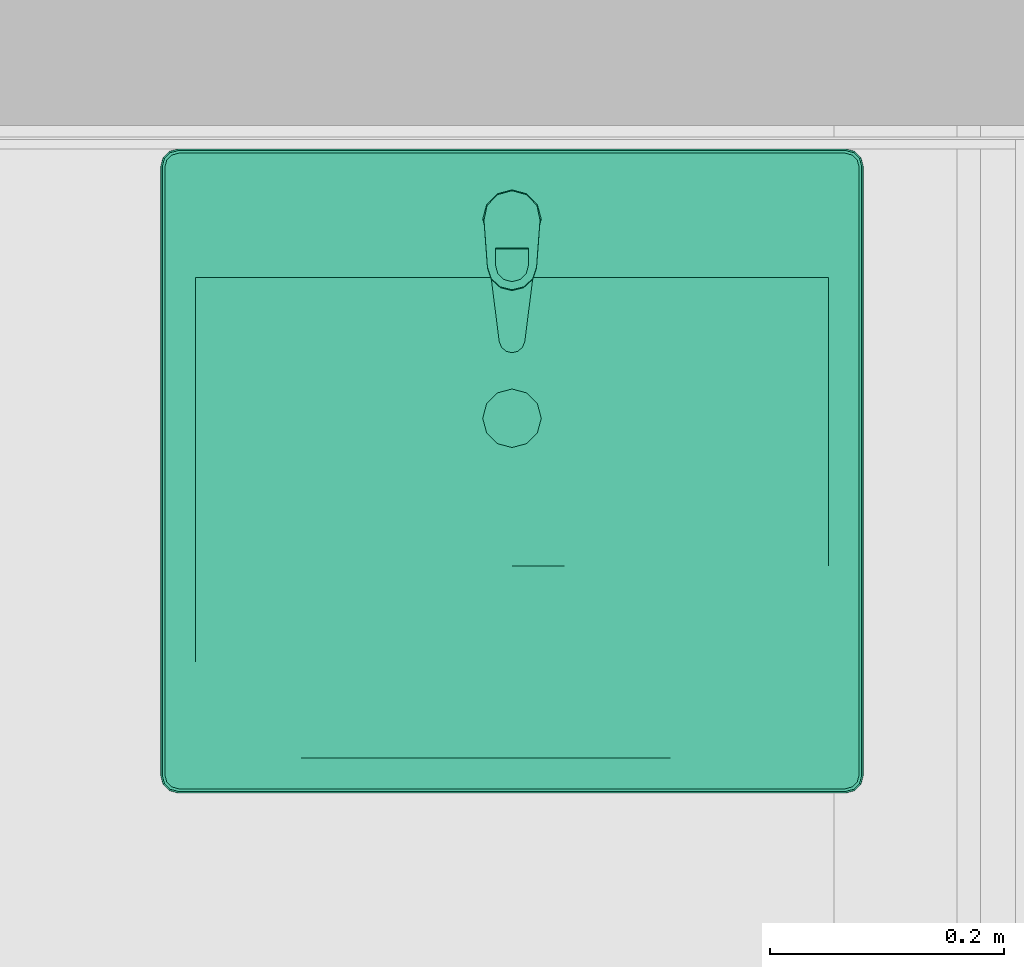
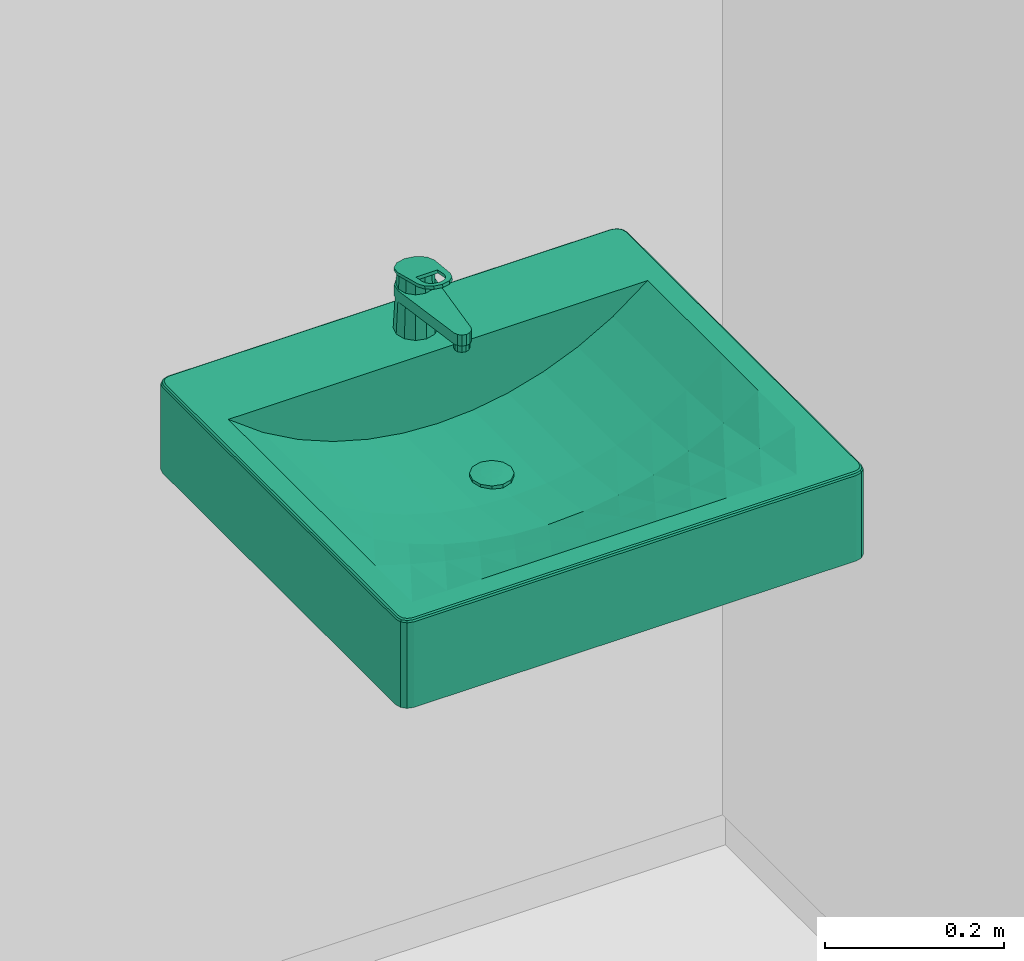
# One storey, part 264 of 347: 1 flow terminal.
"""IFC2X3 building model written with IfcOpenShell, lengths in millimetres."""

from ifc_helpers import new_model, entity, si_unit, converted_unit, derived_unit, money_unit, direction, frame, origin_with_axes, place, context, subcontext, project, spatial, open_shell, faceted_brep, surface_model, source, transform, mapped, type_object, type_shapes, element, save


model = new_model("IFC2X3")

# Units and contexts
model_context = context("Model", 3, precision=0.01, world=origin_with_axes(), true_north=direction((0.0, 1.0)))
plan_context = context("Plan", 3, precision=0.01, world=origin_with_axes(), true_north=direction((0.0, 1.0)))
body_context = subcontext(model_context, "Body", "Model", "MODEL_VIEW")
ifc_project = project(units=[si_unit("LENGTHUNIT", "METRE", prefix="MILLI"), si_unit("AREAUNIT", "SQUARE_METRE"), si_unit("VOLUMEUNIT", "CUBIC_METRE"), converted_unit("PLANEANGLEUNIT", "DEGREE", entity("IfcPlaneAngleMeasure", 0.0174532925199), si_unit("PLANEANGLEUNIT", "RADIAN"), dimensions=[0, 0, 0, 0, 0, 0, 0]), money_unit("EUR"), converted_unit("TIMEUNIT", "Year", entity("IfcTimeMeasure", 31556926.0), si_unit("TIMEUNIT", "SECOND"), dimensions=[0, 0, 1, 0, 0, 0, 0]), si_unit("MASSUNIT", "GRAM", prefix="KILO"), si_unit("THERMODYNAMICTEMPERATUREUNIT", "DEGREE_CELSIUS"), si_unit("LUMINOUSINTENSITYUNIT", "LUMEN"), si_unit("ENERGYUNIT", "JOULE", prefix="MEGA"), derived_unit("THERMALCONDUCTANCEUNIT", [(si_unit("POWERUNIT", "WATT"), 1), (si_unit("LENGTHUNIT", "METRE"), -1), (si_unit("THERMODYNAMICTEMPERATUREUNIT", "KELVIN"), -1)]), derived_unit("SPECIFICHEATCAPACITYUNIT", [(si_unit("ENERGYUNIT", "JOULE"), 1), (si_unit("MASSUNIT", "GRAM", prefix="KILO"), -1), (si_unit("THERMODYNAMICTEMPERATUREUNIT", "KELVIN"), -1)]), derived_unit("MASSDENSITYUNIT", [(si_unit("MASSUNIT", "GRAM", prefix="KILO"), 1), (si_unit("VOLUMEUNIT", "CUBIC_METRE"), -1)])], contexts=[model_context, plan_context])

# Site, building, storey
site_placement = place(None, origin_with_axes())
site = spatial("IfcSite", under=ifc_project, at=site_placement, Name="Site", CompositionType="ELEMENT")
building_placement = place(site_placement, origin_with_axes())
building = spatial("IfcBuilding", under=site, at=building_placement, Name="Naam gebouw", CompositionType="ELEMENT")
storey_placement = place(building_placement, origin_with_axes())
storey = spatial("IfcBuildingStorey", under=building, at=storey_placement, Name="begane grond", CompositionType="ELEMENT", Elevation=0.0)

# Flow terminal
sanitary_terminal_type = type_object("IfcSanitaryTerminalType", Name="Wasbak 25", PredefinedType="WASHHANDBASIN")
shared_shape = source(origin_with_axes(), body_context, "Body", "SurfaceModel", [
    faceted_brep([(285.0, -550.0, 780.0), (-285.0, -550.0, 780.0), (-292.5, -547.990381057, 780.0), (-297.990381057, -542.5, 780.0), (-300.0, -535.0, 780.0), (-300.0, -15.0, 780.0), (-297.990381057, -7.5, 780.0), (-292.5, -2.00961894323, 780.0), (-285.0, 0.0, 780.0), (285.0, 0.0, 780.0), (292.5, -2.00961894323, 780.0), (297.990381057, -7.5, 780.0), (300.0, -15.0, 780.0), (300.0, -535.0, 780.0), (297.990381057, -542.5, 780.0), (292.5, -547.990381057, 780.0), (-270.0, -520.0, 780.0), (270.0, -520.0, 780.0), (270.0, -110.0, 780.0), (-270.0, -110.0, 780.0), (284.999999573, -550.00000039, 895.0), (-284.999999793, -550.00000039, 895.0), (-292.500000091, -547.990381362, 895.0), (-297.990381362, -542.500000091, 895.0), (-300.00000039, -534.999999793, 895.0), (-300.00000039, -15.0000002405, 895.0), (-297.990381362, -7.49999994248, 895.0), (-292.500000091, -2.00961867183, 895.0), (-284.999999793, 3.55541707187e-07, 895.0), (284.999999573, 3.55541707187e-07, 895.0), (292.499999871, -2.00961867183, 895.0), (297.990381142, -7.49999994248, 895.0), (300.000000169, -15.0000002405, 895.0), (300.000000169, -534.999999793, 895.0), (297.990381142, -542.500000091, 895.0), (292.499999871, -547.990381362, 895.0), (-270.0, -520.0, 899.999999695), (270.0, -520.0, 899.999999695), (270.0, -110.0, 899.999999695), (-270.0, -110.0, 899.999999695), (284.977569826, -549.829629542, 896.294095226), (-284.977570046, -549.829629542, 896.294095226), (-292.411809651, -547.837631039, 896.294095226), (-297.837631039, -542.411809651, 896.294095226), (-299.829629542, -534.977570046, 896.294095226), (-299.829629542, -15.0224299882, 896.294095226), (-297.837631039, -7.58819038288, 896.294095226), (-292.411809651, -2.16236899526, 896.294095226), (-284.977570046, -0.170370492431, 896.294095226), (284.977569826, -0.170370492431, 896.294095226), (292.411809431, -2.16236899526, 896.294095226), (297.837630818, -7.58819038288, 896.294095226), (299.829629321, -15.0224299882, 896.294095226), (299.829629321, -534.977570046, 896.294095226), (297.837630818, -542.411809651, 896.294095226), (292.411809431, -547.837631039, 896.294095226), (-284.34173768, -4.99999679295, 899.999999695), (-289.911811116, -6.49249347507, 899.999999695), (-293.507506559, -10.0881889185, 899.999999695), (-295.000003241, -15.6582623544, 899.999999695), (-295.000003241, -534.34173768, 899.999999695), (-293.507506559, -539.911811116, 899.999999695), (-289.911811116, -543.507506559, 899.999999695), (-284.34173768, -545.000003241, 899.999999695), (284.341737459, -545.000003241, 899.999999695), (289.911810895, -543.507506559, 899.999999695), (293.507506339, -539.911811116, 899.999999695), (295.000003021, -534.34173768, 899.999999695), (295.000003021, -15.6582623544, 899.999999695), (293.507506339, -10.0881889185, 899.999999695), (289.911810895, -6.49249347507, 899.999999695), (284.341737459, -4.99999679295, 899.999999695), (284.807198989, -548.535534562, 898.535533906), (-284.807199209, -548.535534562, 898.535533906), (-291.741936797, -546.677377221, 898.535533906), (-296.677377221, -541.741936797, 898.535533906), (-298.535534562, -534.807199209, 898.535533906), (-298.535534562, -15.1928008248, 898.535533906), (-296.677377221, -8.25806323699, 898.535533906), (-291.741936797, -3.32262281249, 898.535533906), (-284.807199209, -1.46446547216, 898.535533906), (284.807198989, -1.46446547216, 898.535533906), (291.741936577, -3.32262281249, 898.535533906), (296.677377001, -8.25806323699, 898.535533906), (298.535534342, -15.1928008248, 898.535533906), (298.535534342, -534.807199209, 898.535533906), (296.677377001, -541.741936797, 898.535533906), (291.741936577, -546.677377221, 898.535533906), (-290.581682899, -5.33224151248, 899.829629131), (-284.512108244, -3.70590388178, 899.829629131), (-294.667758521, -9.41831713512, 899.829629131), (-296.294096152, -15.4878917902, 899.829629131), (-296.294096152, -534.512108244, 899.829629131), (-294.667758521, -540.581682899, 899.829629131), (-290.581682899, -544.667758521, 899.829629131), (-284.512108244, -546.294096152, 899.829629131), (284.512108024, -546.294096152, 899.829629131), (290.581682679, -544.667758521, 899.829629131), (294.667758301, -540.581682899, 899.829629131), (296.294095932, -534.512108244, 899.829629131), (296.294095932, -15.4878917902, 899.829629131), (294.667758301, -9.41831713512, 899.829629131), (290.581682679, -5.33224151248, 899.829629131), (284.512108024, -3.70590388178, 899.829629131)], [[[0, 1, 2, 3, 4, 5, 6, 7, 8, 9, 10, 11, 12, 13, 14, 15], [16, 17, 18, 19]], [[0, 20, 21, 1]], [[1, 21, 22, 2]], [[2, 22, 23, 3]], [[3, 23, 24, 4]], [[4, 24, 25, 5]], [[5, 25, 26, 6]], [[6, 26, 27, 7]], [[7, 27, 28, 8]], [[8, 28, 29, 9]], [[9, 29, 30, 10]], [[10, 30, 31, 11]], [[11, 31, 32, 12]], [[12, 32, 33, 13]], [[13, 33, 34, 14]], [[14, 34, 35, 15]], [[15, 35, 20, 0]], [[36, 37, 17, 16]], [[37, 38, 18, 17]], [[38, 39, 19, 18]], [[39, 36, 16, 19]], [[20, 40, 41, 21]], [[21, 41, 42, 22]], [[22, 42, 43, 23]], [[23, 43, 44, 24]], [[24, 44, 45, 25]], [[25, 45, 46, 26]], [[26, 46, 47, 27]], [[27, 47, 48, 28]], [[28, 48, 49, 29]], [[29, 49, 50, 30]], [[30, 50, 51, 31]], [[31, 51, 52, 32]], [[32, 52, 53, 33]], [[33, 53, 54, 34]], [[34, 54, 55, 35]], [[35, 55, 40, 20]], [[56, 57, 58, 59, 60, 61, 62, 63, 64, 65, 66, 67, 68, 69, 70, 71], [36, 39, 38, 37]], [[40, 72, 73, 41]], [[41, 73, 74, 42]], [[42, 74, 75, 43]], [[43, 75, 76, 44]], [[44, 76, 77, 45]], [[45, 77, 78, 46]], [[46, 78, 79, 47]], [[47, 79, 80, 48]], [[48, 80, 81, 49]], [[49, 81, 82, 50]], [[50, 82, 83, 51]], [[51, 83, 84, 52]], [[52, 84, 85, 53]], [[53, 85, 86, 54]], [[54, 86, 87, 55]], [[55, 87, 72, 40]], [[88, 57, 56, 89]], [[90, 58, 57, 88]], [[91, 59, 58, 90]], [[92, 60, 59, 91]], [[93, 61, 60, 92]], [[94, 62, 61, 93]], [[95, 63, 62, 94]], [[96, 64, 63, 95]], [[97, 65, 64, 96]], [[98, 66, 65, 97]], [[99, 67, 66, 98]], [[100, 68, 67, 99]], [[101, 69, 68, 100]], [[102, 70, 69, 101]], [[103, 71, 70, 102]], [[89, 56, 71, 103]], [[72, 96, 95, 73]], [[73, 95, 94, 74]], [[74, 94, 93, 75]], [[75, 93, 92, 76]], [[76, 92, 91, 77]], [[77, 91, 90, 78]], [[78, 90, 88, 79]], [[79, 88, 89, 80]], [[80, 89, 103, 81]], [[81, 103, 102, 82]], [[82, 102, 101, 83]], [[83, 101, 100, 84]], [[84, 100, 99, 85]], [[85, 99, 98, 86]], [[86, 98, 97, 87]], [[87, 97, 96, 72]]]),
    faceted_brep([(-270.0, -520.0, 780.0), (-270.0, -110.0, 780.0), (270.0, -110.0, 780.0), (270.0, -520.0, 780.0), (12.5, -251.638635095, 780.0), (21.6506350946, -242.488, 780.0), (25.0, -229.988, 780.0), (21.6506350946, -217.488, 780.0), (12.5, -208.337364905, 780.0), (0.0, -204.988, 780.0), (-12.5, -208.337364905, 780.0), (-21.6506350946, -217.488, 780.0), (-25.0, -229.988, 780.0), (-21.6506350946, -242.488, 780.0), (-12.5, -251.638635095, 780.0), (0.0, -254.988, 780.0), (-270.0, -356.0, 900.0), (-270.0, -274.0, 900.0), (-270.0, -192.0, 900.0), (-270.0, -110.0, 900.0), (-270.0, -520.0, 900.0), (-270.0, -438.0, 900.0), (135.0, -110.0, 822.600459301), (180.0, -110.0, 841.123179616), (225.0, -110.0, 866.383281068), (270.0, -110.0, 900.0), (-225.0, -110.0, 866.383281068), (-180.0, -110.0, 841.123179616), (-135.0, -110.0, 822.600459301), (-90.0, -110.0, 809.888766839), (-45.0, -110.0, 802.449942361), (0.0, -110.0, 800.0), (45.0, -110.0, 802.449942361), (90.0, -110.0, 809.888766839), (270.0, -274.0, 900.0), (270.0, -356.0, 900.0), (270.0, -438.0, 900.0), (270.0, -520.0, 900.0), (270.0, -192.0, 900.0), (-135.0, -520.0, 900.0), (-180.0, -520.0, 900.0), (-225.0, -520.0, 900.0), (225.0, -520.0, 900.0), (180.0, -520.0, 900.0), (135.0, -520.0, 900.0), (90.0, -520.0, 900.0), (45.0, -520.0, 900.0), (0.0, -520.0, 900.0), (-45.0, -520.0, 900.0), (-90.0, -520.0, 900.0), (12.5, -251.638635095, 800.680539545), (21.6506350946, -242.488, 801.178729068), (25.0, -229.988, 801.36107909), (21.6506350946, -217.488, 801.178729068), (12.5, -208.337364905, 800.680539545), (0.0, -204.988, 800.0), (-12.5, -208.337364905, 800.680539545), (-21.6506350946, -217.488, 801.178729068), (-25.0, -229.988, 801.36107909), (-21.6506350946, -242.488, 801.178729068), (-12.5, -251.638635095, 800.680539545), (0.0, -254.988, 800.0), (-225.0, -274.0, 866.383281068), (-225.0, -192.0, 866.383281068), (-225.0, -438.0, 885.916884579), (-225.0, -356.0, 870.843379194), (180.0, -192.0, 841.123179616), (135.0, -192.0, 822.600459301), (225.0, -192.0, 866.383281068), (-180.0, -192.0, 841.123179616), (-135.0, -192.0, 822.600459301), (-90.0, -192.0, 809.888766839), (-45.0, -192.0, 802.449942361), (0.0, -192.0, 800.0), (45.0, -192.0, 802.449942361), (90.0, -192.0, 809.888766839), (225.0, -356.0, 870.843379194), (225.0, -438.0, 885.916884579), (225.0, -274.0, 866.383281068), (-135.0, -438.0, 865.865098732), (-180.0, -438.0, 874.576615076), (180.0, -438.0, 874.576615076), (135.0, -438.0, 865.865098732), (90.0, -438.0, 859.698966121), (45.0, -438.0, 856.021333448), (0.0, -438.0, 854.799081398), (-45.0, -438.0, 856.021333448), (-90.0, -438.0, 859.698966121), (0.0, -274.0, 800.0), (45.0, -274.0, 802.449942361), (-45.0, -274.0, 802.449942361), (-180.0, -274.0, 841.123179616), (180.0, -274.0, 841.123179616), (135.0, -274.0, 822.600459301), (-135.0, -274.0, 822.600459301), (-90.0, -274.0, 809.888766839), (90.0, -274.0, 809.888766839), (0.0, -356.0, 811.460400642), (-45.0, -356.0, 813.686473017), (-180.0, -356.0, 848.49465434), (135.0, -356.0, 831.904485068), (180.0, -356.0, 848.49465434), (-135.0, -356.0, 831.904485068), (-90.0, -356.0, 820.431203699), (45.0, -356.0, 813.686473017), (90.0, -356.0, 820.431203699)], [[[0, 1, 2, 3], [4, 5, 6, 7, 8, 9, 10, 11, 12, 13, 14, 15]], [[16, 17, 18, 19, 1, 0, 20, 21]], [[22, 23, 24, 25, 2, 1, 19, 26, 27, 28, 29, 30, 31, 32, 33]], [[34, 35, 36, 37, 3, 2, 25, 38]], [[39, 40, 41, 20, 0, 3, 37, 42, 43, 44, 45, 46, 47, 48, 49]], [[50, 51, 5, 4]], [[51, 52, 6, 5]], [[52, 53, 7, 6]], [[53, 54, 8, 7]], [[54, 55, 9, 8]], [[55, 56, 10, 9]], [[56, 57, 11, 10]], [[57, 58, 12, 11]], [[58, 59, 13, 12]], [[59, 60, 14, 13]], [[60, 61, 15, 14]], [[61, 50, 4, 15]], [[16, 62, 17]], [[62, 63, 18, 17]], [[63, 26, 19, 18]], [[20, 64, 21]], [[21, 65, 16]], [[66, 23, 22, 67]], [[68, 24, 23, 66]], [[38, 25, 24, 68]], [[69, 27, 26, 63]], [[70, 28, 27, 69]], [[71, 29, 28, 70]], [[72, 30, 29, 71]], [[73, 31, 30, 72]], [[74, 32, 31, 73]], [[75, 33, 32, 74]], [[67, 22, 33, 75]], [[76, 35, 34]], [[77, 36, 35]], [[42, 37, 36]], [[34, 38, 68, 78]], [[40, 39, 79]], [[41, 40, 80]], [[20, 41, 64]], [[43, 42, 77]], [[44, 43, 81]], [[45, 44, 82]], [[46, 45, 83]], [[47, 46, 84]], [[48, 47, 85]], [[49, 48, 86]], [[39, 49, 87]], [[54, 53, 52, 51, 50, 61, 88, 89, 74, 73, 55]], [[56, 55, 73, 72, 90, 88, 61, 60, 59, 58, 57]], [[16, 65, 62]], [[91, 69, 63, 62]], [[21, 64, 65]], [[92, 66, 67, 93]], [[78, 68, 66, 92]], [[94, 70, 69, 91]], [[95, 71, 70, 94]], [[90, 72, 71, 95]], [[96, 75, 74, 89]], [[93, 67, 75, 96]], [[77, 35, 76]], [[76, 34, 78]], [[42, 36, 77]], [[39, 87, 79]], [[40, 79, 80]], [[41, 80, 64]], [[43, 77, 81]], [[44, 81, 82]], [[45, 82, 83]], [[46, 83, 84]], [[47, 84, 85]], [[48, 85, 86]], [[49, 86, 87]], [[97, 89, 88]], [[98, 88, 90]], [[65, 91, 62]], [[64, 99, 65]], [[100, 92, 93]], [[101, 78, 92]], [[99, 94, 91]], [[102, 95, 94]], [[103, 90, 95]], [[104, 96, 89]], [[105, 93, 96]], [[81, 77, 76]], [[101, 76, 78]], [[79, 87, 103]], [[80, 79, 102]], [[64, 80, 99]], [[82, 81, 101]], [[83, 82, 100]], [[84, 83, 105]], [[85, 84, 104]], [[86, 85, 97]], [[87, 86, 98]], [[97, 104, 89]], [[98, 97, 88]], [[103, 98, 90]], [[65, 99, 91]], [[100, 101, 92]], [[105, 100, 93]], [[99, 102, 94]], [[102, 103, 95]], [[104, 105, 96]], [[81, 76, 101]], [[87, 98, 103]], [[79, 103, 102]], [[80, 102, 99]], [[82, 101, 100]], [[83, 100, 105]], [[84, 105, 104]], [[85, 104, 97]], [[86, 97, 98]]]),
    faceted_brep([(21.6506350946, -242.488, 800.0), (12.5, -251.638635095, 800.0), (0.0, -254.988, 800.0), (-12.5, -251.638635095, 800.0), (-21.6506350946, -242.488, 800.0), (-25.0, -229.988, 800.0), (-21.6506350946, -217.488, 800.0), (-12.5, -208.337364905, 800.0), (0.0, -204.988, 800.0), (12.5, -208.337364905, 800.0), (21.6506350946, -217.488, 800.0), (25.0, -229.988, 800.0), (21.6506350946, -242.488, 805.0), (12.5, -251.638635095, 805.0), (0.0, -254.988, 805.0), (-12.5, -251.638635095, 805.0), (-21.6506350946, -242.488, 805.0), (-25.0, -229.988, 805.0), (-21.6506350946, -217.488, 805.0), (-12.5, -208.337364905, 805.0), (0.0, -204.988, 805.0), (12.5, -208.337364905, 805.0), (21.6506350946, -217.488, 805.0), (25.0, -229.988, 805.0)], [[[0, 1, 2, 3, 4, 5, 6, 7, 8, 9, 10, 11]], [[1, 0, 12, 13]], [[2, 1, 13, 14]], [[3, 2, 14, 15]], [[4, 3, 15, 16]], [[5, 4, 16, 17]], [[6, 5, 17, 18]], [[7, 6, 18, 19]], [[8, 7, 19, 20]], [[9, 8, 20, 21]], [[10, 9, 21, 22]], [[11, 10, 22, 23]], [[0, 11, 23, 12]], [[12, 23, 22, 21, 20, 19, 18, 17, 16, 15, 14, 13]]]),
    surface_model("IfcShellBasedSurfaceModel", [(0.0, -229.988, 807.0), (0.0, -217.366094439, 806.49757372), (-6.31095278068, -219.05710914, 806.49757372), (6.31095278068, -219.05710914, 806.49757372), (0.0, -204.988, 805.0), (-12.5, -208.337364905, 805.0), (-10.9308908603, -223.677047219, 806.49757372), (10.9308908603, -223.677047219, 806.49757372), (12.5, -208.337364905, 805.0), (-21.6506350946, -217.488, 805.0), (-12.6219055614, -229.988, 806.49757372), (12.6219055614, -229.988, 806.49757372), (21.6506350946, -217.488, 805.0), (-25.0, -229.988, 805.0), (-10.9308908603, -236.298952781, 806.49757372), (10.9308908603, -236.298952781, 806.49757372), (25.0, -229.988, 805.0), (-21.6506350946, -242.488, 805.0), (-6.31095278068, -240.91889086, 806.49757372), (6.31095278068, -240.91889086, 806.49757372), (21.6506350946, -242.488, 805.0), (-12.5, -251.638635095, 805.0), (0.0, -242.609905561, 806.49757372), (12.5, -251.638635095, 805.0), (0.0, -254.988, 805.0)], [open_shell([[[0, 1, 2]], [[0, 3, 1]], [[2, 1, 4, 5]], [[0, 2, 6]], [[0, 7, 3]], [[1, 3, 8, 4]], [[6, 2, 5, 9]], [[0, 6, 10]], [[0, 11, 7]], [[3, 7, 12, 8]], [[10, 6, 9, 13]], [[0, 10, 14]], [[0, 15, 11]], [[7, 11, 16, 12]], [[14, 10, 13, 17]], [[0, 14, 18]], [[0, 19, 15]], [[11, 15, 20, 16]], [[18, 14, 17, 21]], [[0, 18, 22]], [[0, 22, 19]], [[15, 19, 23, 20]], [[22, 18, 21, 24]], [[19, 22, 24, 23]]])]),
    faceted_brep([(12.5, -38.3493649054, 900.0), (0.0, -35.0, 900.0), (0.0, -38.7980769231, 975.961538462), (10.5873227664, -41.6622190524, 976.507089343), (21.6506350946, -47.5, 900.0), (25.0, -60.0, 900.0), (21.6506350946, -72.5, 900.0), (12.5, -81.6506350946, 900.0), (0.0, -85.0, 900.0), (-12.5, -81.6506350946, 900.0), (-21.6506350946, -72.5, 900.0), (-25.0, -60.0, 900.0), (-21.6506350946, -47.5, 900.0), (-12.5, -38.3493649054, 900.0), (-10.5873227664, -41.6622190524, 976.507089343), (-18.2735503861, -49.4497607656, 977.990430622), (-21.0, -60.0, 980.0), (-18.1003413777, -70.4502369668, 981.990521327), (-10.4141059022, -78.037760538, 983.435763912), (0.0, -80.8018867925, 983.962264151), (10.4141059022, -78.037760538, 983.435763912), (18.1003413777, -70.4502369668, 981.990521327), (21.0, -60.0, 980.0), (18.2735503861, -49.4497607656, 977.990430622)], [[[0, 1, 2, 3]], [[0, 4, 5, 6, 7, 8, 9, 10, 11, 12, 13, 1]], [[1, 13, 14, 2]], [[3, 2, 14, 15, 16, 17, 18, 19, 20, 21, 22, 23]], [[4, 0, 3, 23]], [[5, 4, 23, 22]], [[6, 5, 22, 21]], [[7, 6, 21, 20]], [[8, 7, 20, 19]], [[9, 8, 19, 18]], [[10, 9, 18, 17]], [[11, 10, 17, 16]], [[12, 11, 16, 15]], [[13, 12, 15, 14]]]),
    faceted_brep([(9.0, -163.0, 935.0), (7.79422863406, -158.5, 935.0), (7.79422863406, -158.5, 945.0), (9.0, -163.0, 945.0), (7.79422863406, -167.5, 935.0), (4.5, -170.794228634, 935.0), (0.0, -172.0, 935.0), (-4.5, -170.794228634, 935.0), (-7.79422863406, -167.5, 935.0), (-9.0, -163.0, 935.0), (-7.79422863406, -158.5, 935.0), (-4.5, -155.205771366, 935.0), (0.0, -154.0, 935.0), (4.5, -155.205771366, 935.0), (4.5, -155.205771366, 945.0), (0.0, -154.0, 945.0), (-4.5, -155.205771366, 945.0), (-7.79422863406, -158.5, 945.0), (-9.0, -163.0, 945.0), (-7.79422863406, -167.5, 945.0), (-4.5, -170.794228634, 945.0), (0.0, -172.0, 945.0), (4.5, -170.794228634, 945.0), (7.79422863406, -167.5, 945.0)], [[[0, 1, 2, 3]], [[0, 4, 5, 6, 7, 8, 9, 10, 11, 12, 13, 1]], [[1, 13, 14, 2]], [[3, 2, 14, 15, 16, 17, 18, 19, 20, 21, 22, 23]], [[4, 0, 3, 23]], [[5, 4, 23, 22]], [[6, 5, 22, 21]], [[7, 6, 21, 20]], [[8, 7, 20, 19]], [[9, 8, 19, 18]], [[10, 9, 18, 17]], [[11, 10, 17, 16]], [[12, 11, 16, 15]], [[13, 12, 15, 14]]]),
    faceted_brep([(-12.8717176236, -39.7436961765, 960.0), (-21.727805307, -49.8067946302, 960.0), (-23.8054, -63.0499, 960.0), (-10.911990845, -164.388371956, 960.0), (-9.02887546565, -169.283194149, 960.0), (-5.09332449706, -172.749726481, 960.0), (3.62679860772e-05, -173.99996004, 960.0), (5.09338878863, -172.749692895, 960.0), (9.02891689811, -169.283134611, 960.0), (10.912, -164.3883, 960.0), (23.8053997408, -63.0499020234, 960.0), (21.7278061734, -49.806796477, 960.0), (12.8717193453, -39.7436972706, 960.0), (1.01998896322e-06, -36.000021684, 960.0), (11.0, -40.9474411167, 960.0), (19.0525588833, -49.0, 960.0), (22.0, -60.0, 960.0), (19.0525588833, -71.0, 960.0), (11.0, -79.0525588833, 960.0), (0.0, -82.0, 960.0), (-11.0, -79.0525588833, 960.0), (-19.0525588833, -71.0, 960.0), (-22.0, -60.0, 960.0), (-19.0525588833, -49.0, 960.0), (-11.0, -40.9474411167, 960.0), (0.0, -38.0, 960.0), (-21.727805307, -49.8067946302, 945.0), (-12.8717176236, -39.7436961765, 945.0), (-23.8054, -63.0499, 945.0), (-10.911990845, -164.388371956, 945.0), (-9.02887546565, -169.283194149, 945.0), (-5.09332449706, -172.749726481, 945.0), (3.62679860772e-05, -173.99996004, 945.0), (5.09338878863, -172.749692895, 945.0), (9.02891689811, -169.283134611, 945.0), (10.912, -164.3883, 945.0), (23.8053997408, -63.0499020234, 945.0), (21.7278061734, -49.806796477, 945.0), (12.8717193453, -39.7436972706, 945.0), (1.01998896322e-06, -36.000021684, 945.0), (11.375, -40.2979220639, 945.0), (19.7020779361, -48.625, 945.0), (22.75, -60.0, 945.0), (19.7020779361, -71.375, 945.0), (11.375, -79.7020779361, 945.0), (0.0, -82.75, 945.0), (-11.375, -79.7020779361, 945.0), (-19.7020779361, -71.375, 945.0), (-22.75, -60.0, 945.0), (-19.7020779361, -48.625, 945.0), (-11.375, -40.2979220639, 945.0), (0.0, -37.25, 945.0)], [[[0, 1, 2, 3, 4, 5, 6, 7, 8, 9, 10, 11, 12, 13], [14, 15, 16, 17, 18, 19, 20, 21, 22, 23, 24, 25]], [[26, 1, 0, 27]], [[28, 2, 1, 26]], [[29, 3, 2, 28]], [[30, 4, 3, 29]], [[31, 5, 4, 30]], [[32, 6, 5, 31]], [[33, 7, 6, 32]], [[34, 8, 7, 33]], [[35, 9, 8, 34]], [[36, 10, 9, 35]], [[37, 11, 10, 36]], [[38, 12, 11, 37]], [[39, 13, 12, 38]], [[27, 0, 13, 39]], [[40, 41, 15, 14]], [[41, 42, 16, 15]], [[42, 43, 17, 16]], [[43, 44, 18, 17]], [[44, 45, 19, 18]], [[20, 19, 45, 46]], [[21, 20, 46, 47]], [[22, 21, 47, 48]], [[23, 22, 48, 49]], [[24, 23, 49, 50]], [[50, 51, 25, 24]], [[51, 40, 14, 25]], [[32, 31, 30, 29, 28, 26, 27, 39, 38, 37, 36, 35, 34, 33], [44, 43, 42, 41, 40, 51, 50, 49, 48, 47, 46, 45]]]),
    faceted_brep([(23.893, -61.6925693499, 980.322394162), (21.2964214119, -49.225281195, 977.947672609), (21.2964214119, -48.4768327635, 981.877026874), (23.893, -60.9441209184, 984.251748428), (20.9459364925, -101.836702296, 987.968895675), (17.6631391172, -111.514366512, 989.812260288), (10.0614352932, -118.463746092, 991.135951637), (-0.000442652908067, -120.98561192, 991.616307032), (-10.0622123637, -118.463329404, 991.135872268), (-17.6636179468, -111.513635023, 989.812120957), (-20.946, -101.835834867, 987.968730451), (-23.893020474, -61.6922904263, 980.322341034), (-21.2962910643, -49.2250325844, 977.947625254), (-12.4716815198, -39.9088025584, 976.173105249), (0.000142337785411, -36.4680354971, 975.517721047), (12.4719245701, -39.9089481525, 976.173132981), (14.0, -85.540802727, 984.864914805), (-14.0, -85.540802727, 984.864914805), (-14.0, -100.356432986, 987.686939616), (-12.124355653, -107.232802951, 988.996724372), (-7.0, -112.266655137, 989.955553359), (0.0, -114.109172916, 990.306509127), (7.0, -112.266655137, 989.955553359), (12.124355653, -107.232802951, 988.996724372), (14.0, -100.356432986, 987.686939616), (12.4719245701, -39.1604997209, 980.102487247), (0.000142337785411, -35.7195870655, 979.447075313), (-12.4716815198, -39.1603541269, 980.102459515), (-21.2962910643, -48.4765841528, 981.87697952), (-23.893020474, -60.9438419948, 984.251695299), (-20.946, -101.087386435, 991.898084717), (-17.6636179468, -110.765186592, 993.741475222), (-10.0622123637, -117.714880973, 995.065226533), (-0.000442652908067, -120.237163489, 995.545661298), (10.0614352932, -117.71529766, 995.065305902), (17.6631391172, -110.76591808, 993.741614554), (20.9459364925, -101.088253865, 991.898249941), (14.0, -84.7923542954, 988.794269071), (14.0, -99.6079845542, 991.616293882), (12.124355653, -106.484354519, 992.926078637), (7.0, -111.518206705, 993.884907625), (0.0, -113.360724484, 994.235863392), (-7.0, -111.518206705, 993.884907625), (-12.124355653, -106.484354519, 992.926078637), (-14.0, -99.6079845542, 991.616293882), (-14.0, -84.7923542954, 988.794269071)], [[[0, 1, 2, 3]], [[0, 4, 5, 6, 7, 8, 9, 10, 11, 12, 13, 14, 15, 1], [16, 17, 18, 19, 20, 21, 22, 23, 24]], [[1, 15, 25, 2]], [[3, 2, 25, 26, 27, 28, 29, 30, 31, 32, 33, 34, 35, 36], [37, 38, 39, 40, 41, 42, 43, 44, 45]], [[4, 0, 3, 36]], [[5, 4, 36, 35]], [[6, 5, 35, 34]], [[7, 6, 34, 33]], [[8, 7, 33, 32]], [[9, 8, 32, 31]], [[10, 9, 31, 30]], [[11, 10, 30, 29]], [[12, 11, 29, 28]], [[13, 12, 28, 27]], [[14, 13, 27, 26]], [[15, 14, 26, 25]], [[17, 16, 37, 45]], [[18, 17, 45, 44]], [[19, 18, 44, 43]], [[20, 19, 43, 42]], [[21, 20, 42, 41]], [[22, 21, 41, 40]], [[23, 22, 40, 39]], [[24, 23, 39, 38]], [[16, 24, 38, 37]]]),
    surface_model("IfcShellBasedSurfaceModel", [(0.0, -250.988, 780.0), (-5.43519994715, -250.272442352, 780.0), (-5.43519994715, -250.272442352, 760.0), (0.0, -250.988, 760.0), (-10.5, -248.174533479, 780.0), (-10.5, -248.174533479, 760.0), (5.43519994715, -250.272442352, 780.0), (5.43519994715, -250.272442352, 760.0), (-14.8492424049, -244.837242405, 780.0), (-14.8492424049, -244.837242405, 760.0), (10.5, -248.174533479, 780.0), (10.5, -248.174533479, 760.0), (-18.1865334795, -240.488, 780.0), (-18.1865334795, -240.488, 760.0), (14.8492424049, -244.837242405, 780.0), (14.8492424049, -244.837242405, 760.0), (-20.2844423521, -235.423199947, 780.0), (-20.2844423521, -235.423199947, 760.0), (18.1865334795, -240.488, 780.0), (18.1865334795, -240.488, 760.0), (-21.0, -229.988, 780.0), (-21.0, -229.988, 760.0), (20.2844423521, -235.423199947, 780.0), (20.2844423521, -235.423199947, 760.0), (-20.2844423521, -224.552800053, 780.0), (-20.2844423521, -224.552800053, 760.0), (21.0, -229.988, 780.0), (21.0, -229.988, 760.0), (-18.1865334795, -219.488, 780.0), (-18.1865334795, -219.488, 760.0), (20.2844423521, -224.552800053, 780.0), (20.2844423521, -224.552800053, 760.0), (-14.8492424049, -215.138757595, 780.0), (-14.8492424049, -215.138757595, 760.0), (18.1865334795, -219.488, 780.0), (18.1865334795, -219.488, 760.0), (-10.5, -211.801466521, 780.0), (-10.5, -211.801466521, 760.0), (14.8492424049, -215.138757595, 780.0), (14.8492424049, -215.138757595, 760.0), (-5.43519994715, -209.703557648, 780.0), (-5.43519994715, -209.703557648, 760.0), (10.5, -211.801466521, 780.0), (10.5, -211.801466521, 760.0), (0.0, -208.988, 780.0), (0.0, -208.988, 760.0), (5.43519994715, -209.703557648, 780.0), (5.43519994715, -209.703557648, 760.0)], [open_shell([[[0, 1, 2, 3]], [[1, 4, 5, 2]], [[6, 0, 3, 7]], [[4, 8, 9, 5]], [[10, 6, 7, 11]], [[8, 12, 13, 9]], [[14, 10, 11, 15]], [[12, 16, 17, 13]], [[18, 14, 15, 19]], [[16, 20, 21, 17]], [[22, 18, 19, 23]], [[20, 24, 25, 21]], [[26, 22, 23, 27]], [[24, 28, 29, 25]], [[30, 26, 27, 31]], [[28, 32, 33, 29]], [[34, 30, 31, 35]], [[32, 36, 37, 33]], [[38, 34, 35, 39]], [[36, 40, 41, 37]], [[42, 38, 39, 43]], [[40, 44, 45, 41]], [[46, 42, 43, 47]], [[44, 46, 47, 45]]])]),
])
type_shapes(sanitary_terminal_type, [shared_shape])
flow_terminal_placement = place(storey_placement, frame((43995.0, 34569.9999945, 0.0), z_axis=(0.0, 0.0, 1.0), x_axis=(1.0, 0.0, 0.0)))
element("IfcFlowTerminal", 1, at=flow_terminal_placement, inside=storey, type_object=sanitary_terminal_type, Name="52_Sanitair wastafel", context=body_context, shape_type="MappedRepresentation", body=[
    mapped(shared_shape, transform((0.0, 0.0, 0.0))),
])

save(model, "model.ifc")
